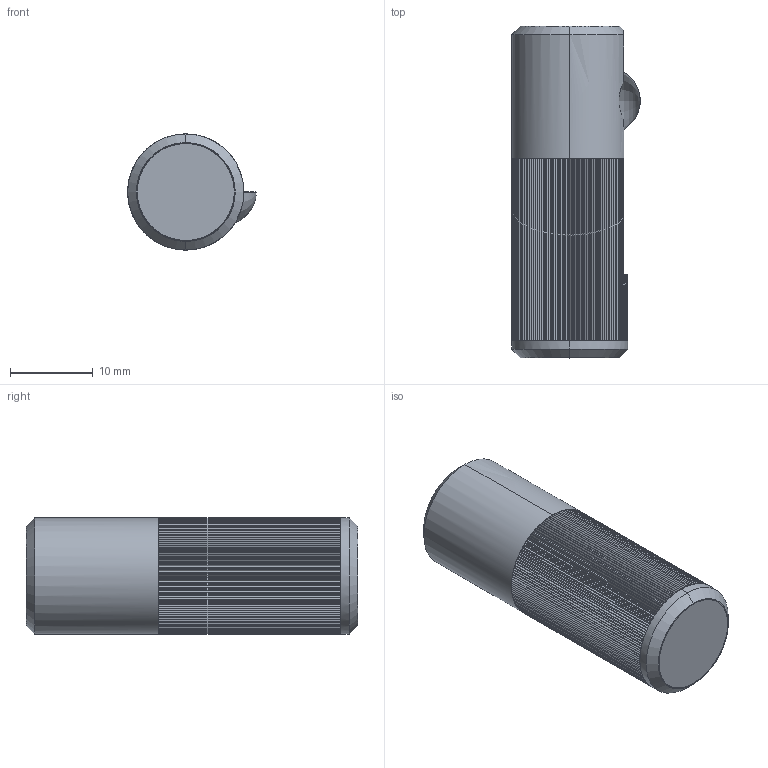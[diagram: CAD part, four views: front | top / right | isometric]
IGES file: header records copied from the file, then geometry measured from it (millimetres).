
Start section: SolidWorks IGES file using analytic representation for surfaces
Global section: file name: C:\Documents and Settings\IANO\Desktop\Temp File\Process pending\NEW\32800_v2\32800_v2_20170703_IGES\32800.W0414.igs; native system: SolidWorks 2009; preprocessor: SolidWorks 2009; author: IANO; date: 170630.125135; units: millimetre
Bounding box: 15.5 x 40 x 14 mm (x, y, z)
Surface area: 5598.7 mm2 (no closed solid volume)
Topology: 0 solids, 0 shells, 600 faces, 2984 edges, 2981 vertices
Faces by surface type: bspline 577, revolution 23
